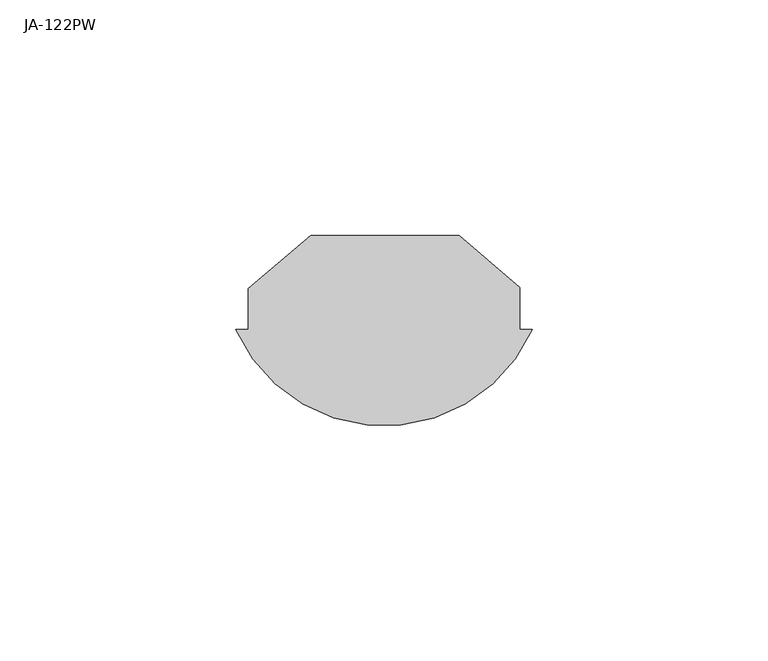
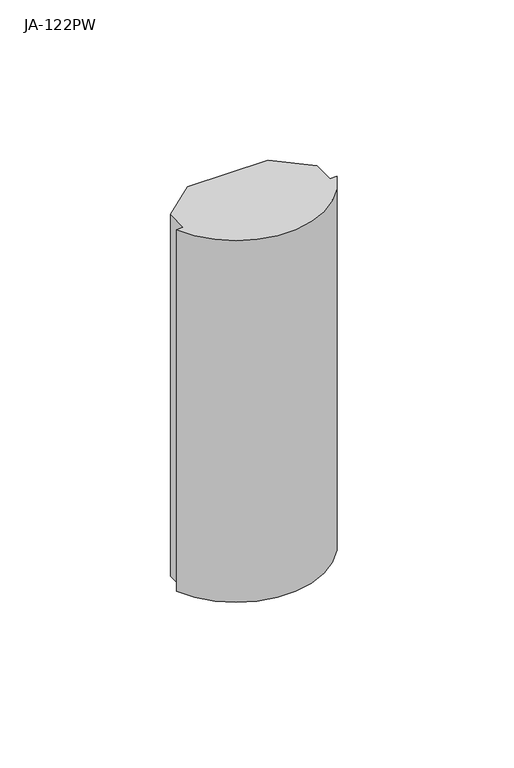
"""IFC4 building model written with IfcOpenShell, lengths in millimetres: proxy geometry, PIR detektory.CC : JA-122PW."""

from ifc_helpers import new_model, si_unit, point, frame, frame_2d, origin, place, context, project, spatial, polyline, circle_curve, trimmed, segment, composite_curve, outline, extrude, source, transform, mapped, element, save


def ja_122pw_04791ad2(model_context):
    return source(origin(), model_context, "Body", "SweptSolid", [
        extrude(outline(composite_curve([segment(trimmed(circle_curve(frame_2d((0.0, -5.975)), 34.4811633), [point((31.5, -20.0))], [point((-31.5, -20.0))], False, "CARTESIAN"), True, "CONTINUOUS"), segment(polyline([(-31.5, -20.0), (-28.8127665, -20.0), (-28.8127665, -11.2358301), (-15.5, 0.0), (15.9214911, 0.0), (28.8127665, -11.0753807), (28.8127665, -20.0), (31.5, -20.0)]), True, "CONTINUOUS")], self_intersect=False)), frame((0.0, 0.0, -55.0), z_axis=(0.0, 0.0, 1.0), x_axis=(1.0, 0.0, 0.0)), (0.0, 0.0, 1.0), 150.0),
    ])


if __name__ == "__main__":
    model = new_model("IFC4")
    model_context = context("Model", 3, world=origin())
    ifc_project = project(units=[si_unit("LENGTHUNIT", "METRE", prefix="MILLI")], contexts=[model_context])
    site = spatial("IfcSite", under=ifc_project)
    building = spatial("IfcBuilding", under=site)
    placement = place(None, origin())
    ja_122pw_shape = ja_122pw_04791ad2(model_context)
    element("IfcBuildingElementProxy", 1, Name="PIR detektory.CC : JA-122PW", ObjectType="PIR detektory.CC : JA-122PW", at=placement, inside=building, context=model_context, shape_type="MappedRepresentation", body=[
        mapped(ja_122pw_shape, transform((0.0, 0.0, 0.0), x_axis=(1.0, 0.0, 0.0), y_axis=(0.0, 1.0, 0.0), z_axis=(0.0, 0.0, 1.0))),
    ])
    save(model, "model.ifc")
